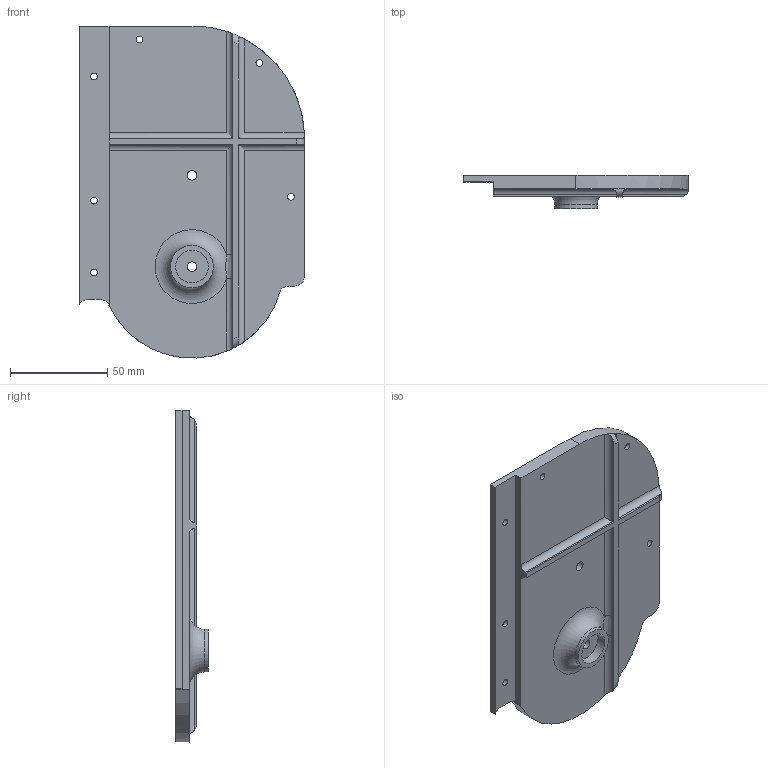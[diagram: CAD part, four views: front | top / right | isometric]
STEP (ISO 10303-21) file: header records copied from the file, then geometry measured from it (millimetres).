
FILE_DESCRIPTION(('STEP AP242 Edition 2','STEP AP242 Edition 2''CAx-IF Rec.Pracs.---Representation and Presentation of Product Manufacturing Information (PMI)---4.0---2014-10-13','STEP AP242 Edition 2''CAx-IF Rec.Pracs.---Representation and Presentation of Product Manufacturing Information (PMI)---4.0---2014-10-13''CAx-IF Rec.Pracs.---3D Tessellated Geometry---0.4---2014-09-14','STEP AP242 Edition 2''CAx-IF Rec.Pracs.---Representation and Presentation of Product Manufacturing Information (PMI)---4.0---2014-10-13''CAx-IF Rec.Pracs.---3D Tessellated Geometry---0.4---2014-09-14''2;1','STEP AP242 Edition 2''CAx-IF Rec.Pracs.---Representation and Presentation of Product Manufacturing Information (PMI)---4.0---2014-10-13''CAx-IF Rec.Pracs.---3D Tessellated Geometry---0.4---2014-09-14''2;1''CAx-IF Rec.Pracs.---User Defined Attributes---1.5---2016-08-15'),'2;1');
FILE_NAME('/vol/tmp/translate-5040711457071313074/gearBoxBot Copy 1 - Part 2.step','2026-03-05T22:39:51',(''),(''),'ST-DEVELOPER v20','ONSHAPE BY PTC INC, 1.211',' ');
FILE_SCHEMA(('AP242_MANAGED_MODEL_BASED_3D_ENGINEERING_MIM_LF { 1 0 10303 442 3 1 4 }'));
Length unit declared in the file: metre
Products named in the file (1): Part 2
Bounding box: 115.95 x 17 x 171.11 mm (x, y, z)
Volume: 121587.1 mm3; surface area: 40999 mm2
Topology: 1 solids, 1 shells, 53 faces, 138 edges, 88 vertices
Faces by surface type: cylinder 26, plane 23, torus 3, bspline 1
Full cylindrical faces by diameter (mm): 3.5 x6, 5 x2, 16.8 x1, 22 x1
Entity records: 1665 total; most frequent: CARTESIAN_POINT 348, DIRECTION 268, ORIENTED_EDGE 252, EDGE_CURVE 126, AXIS2_PLACEMENT_3D 103, VERTEX_POINT 87, EDGE_LOOP 81, FACE_BOUND 81
